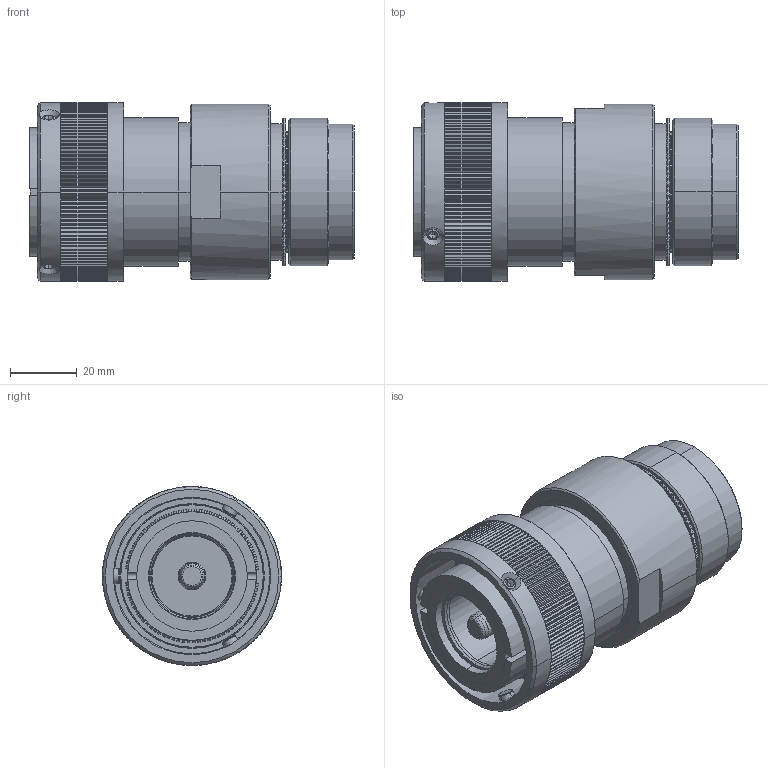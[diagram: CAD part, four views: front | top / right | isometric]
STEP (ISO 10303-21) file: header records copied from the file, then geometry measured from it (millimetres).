
FILE_DESCRIPTION((''),'2;1');
FILE_NAME('GCE3106E28M150P-B-T14','2024-07-12T15:49:23',('paultorloting'),('NET AG system integration'),'CREO PARAMETRIC BY PTC INC, 2021404','CREO PARAMETRIC BY PTC INC, 2021404','');
FILE_SCHEMA(('AUTOMOTIVE_DESIGN { 1 0 10303 214 1 1 1 1 }'));
Products named in the file (1): GCE3106E28M150P-B-T14
Bounding box: 96.9 x 53.5 x 53.5 mm (x, y, z)
Volume: 155602.9 mm3; surface area: 37719.9 mm2
Topology: 1 solids, 2 shells, 2735 faces, 6961 edges, 4229 vertices
Faces by surface type: plane 1345, bspline 1114, cylinder 188, cone 62, torus 26
Entity records: 123803 total; most frequent: CARTESIAN_POINT 55426, ORIENTED_EDGE 13910, DIRECTION 8379, EDGE_CURVE 6955, VERTEX_POINT 4229, VECTOR 3646, LINE 3646, EDGE_LOOP 3056
